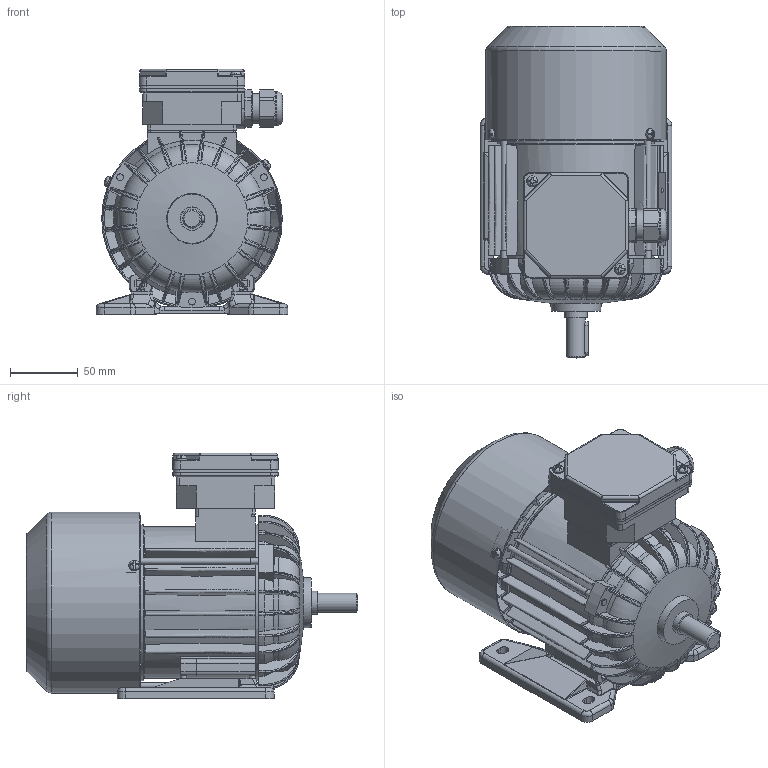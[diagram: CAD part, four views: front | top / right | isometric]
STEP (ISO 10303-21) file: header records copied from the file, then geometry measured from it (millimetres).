
FILE_DESCRIPTION(/* description */ ('Unknown'),/* implementation_level */ '2;1');
FILE_NAME(/* name */ '2SIE71-8B',/* time_stamp */ '2021-04-13T15:18:50+02:00',/* author */ ('Unknown'),/* organization */ ('Unknown'),/* preprocessor_version */ 'ST-DEVELOPER v16.7',/* originating_system */ 'Solid Edge',/* authorisation */ 'Unknown');
FILE_SCHEMA (('AUTOMOTIVE_DESIGN {1 0 10303 214 3 1 1}'));
Products named in the file (1): 2SIE71-8B
Bounding box: 141.93 x 245.47 x 181.5 mm (x, y, z)
Volume: 646931.6 mm3; surface area: 404372.6 mm2
Topology: 2 solids, 2 shells, 2974 faces, 8254 edges, 5224 vertices
Faces by surface type: plane 1097, cylinder 780, bspline 609, torus 276, cone 180, sphere 32
Full cylindrical faces by diameter (mm): 2 x2, 2.4 x2, 3.7 x4, 3.8 x4, 4 x2, 4.6 x3, 4.8 x2, 5 x8, 5.5 x3, 5.8 x4, 7 x1, 8 x9, 13.997 x1, 15.897 x1, 16.097 x1, 16.497 x1, 16.997 x2, 17.4 x2, 21.996 x2, 22.3 x1, 22.496 x1, 22.995 x1, 23.095 x1, 24.493 x4, 25 x1, 28 x2, 30 x1, 32.502 x4, 36 x2, 40 x3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
Entity records: 129501 total; most frequent: CARTESIAN_POINT 39098, ORIENTED_EDGE 15766, DIRECTION 12947, EDGE_CURVE 7883, VERTEX_POINT 5101, AXIS2_PLACEMENT_3D 4944, FACE_BOUND 3376, EDGE_LOOP 3372
